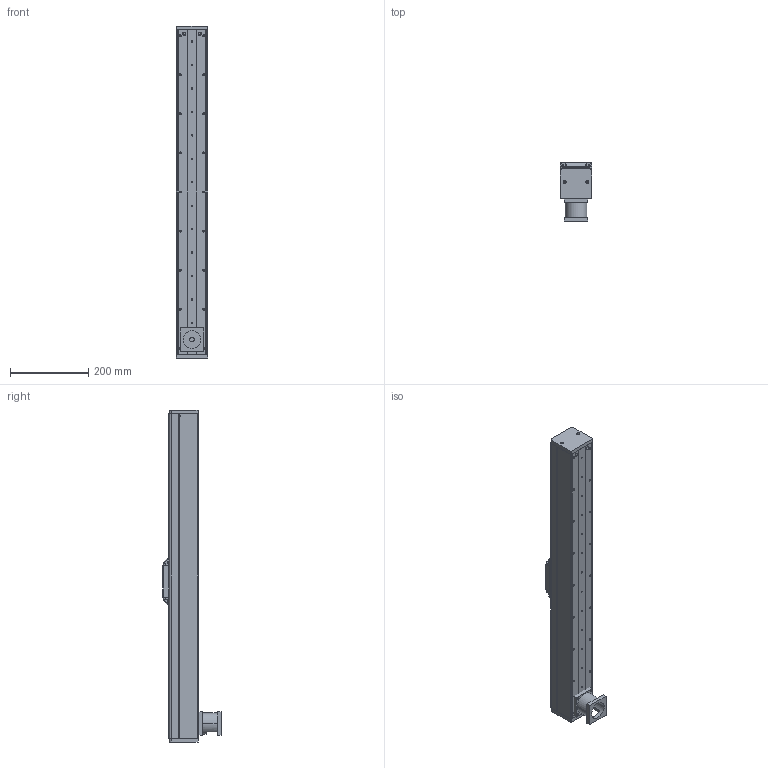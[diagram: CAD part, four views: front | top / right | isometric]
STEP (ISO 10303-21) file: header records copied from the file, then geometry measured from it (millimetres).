
FILE_DESCRIPTION (( 'STEP AP214' ), '1' );
FILE_NAME ('CF80-D-C-P-FWD.STEP', '2016-07-21T03:20:00', ( 'Sky123.Org' ), ( 'Sky123.Org' ), 'SwSTEP 2.0', 'SolidWorks 2015', '' );
FILE_SCHEMA (( 'AUTOMOTIVE_DESIGN' ));
Length unit declared in the file: millimetre
Products named in the file (17): CF80墙板-P600; CF80菁釱-P600; CF80-D-C-P-FWD; CF86植雄耜; 翋雄粣; 肮祭謫5m21喘詢25囀謂14; 萇儂蟀諉ん; 翋雄釱; CF80Х啣з諳-P600; CF80詩湍揤啣2; CF80耜啣; CF80詩湍-P830; 賑雄輸裔啣; angular contact ball bearings gb_Rolling bearings S7001 GB 292-94; CF80賑雄輸; EGR15絳寢-P600; EGW15CA賑輸
Assembly tree (20 placements, depth 2):
  CF80-D-C-P-FWD
    CF80菁釱-P600
    CF80墙板-P600
    EGW15CA賑輸
    EGR15絳寢-P600
    CF80賑雄輸
    angular contact ball bearings gb_Rolling bearings S7001 GB 292-94  x2
    賑雄輸裔啣
    CF80詩湍-P830
    CF80耜啣  x2
    CF80詩湍揤啣2  x2
    CF80Х啣з諳-P600
    翋雄釱
    萇儂蟀諉ん
    肮祭謫5m21喘詢25囀謂14  x2
    翋雄粣
    CF86植雄耜
Bounding box: 80.02 x 149 x 850 mm (x, y, z)
Volume: 1903663.6 mm3; surface area: 875823.8 mm2
Topology: 20 solids, 20 shells, 1092 faces, 3481 edges, 2324 vertices
Faces by surface type: plane 507, cylinder 415, torus 106, sphere 56, cone 8
Entity records: 32694 total; most frequent: CARTESIAN_POINT 6991, ORIENTED_EDGE 5098, DIRECTION 4895, EDGE_CURVE 2549, AXIS2_PLACEMENT_3D 1743, VERTEX_POINT 1699, VECTOR 1409, LINE 1409
